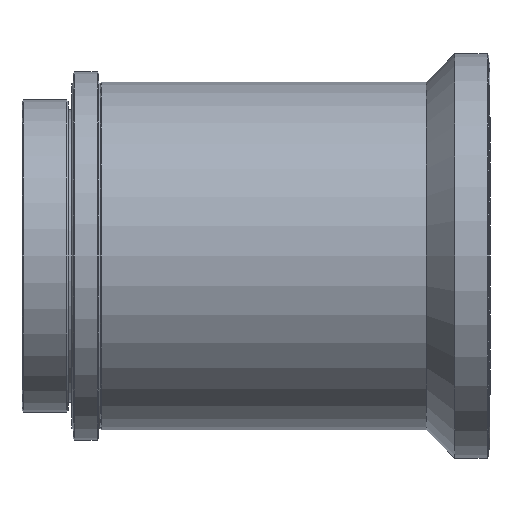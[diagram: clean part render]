
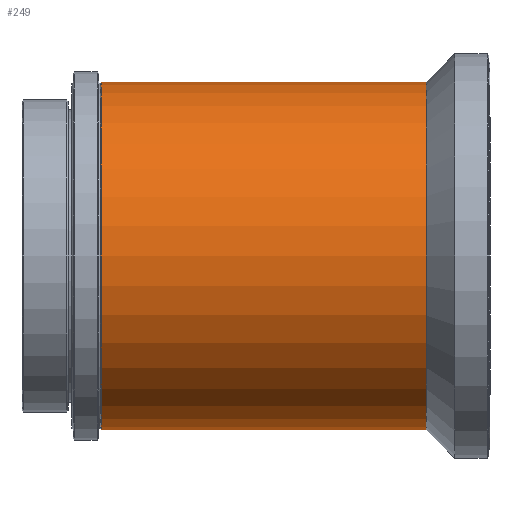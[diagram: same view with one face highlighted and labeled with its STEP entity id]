
A CAD part, front view. The second image highlights one B-rep face of the part: STEP entity #249.
In plain terms, the highlighted cylindrical face has radius 24.5 mm (diameter 49 mm), a partial arc.
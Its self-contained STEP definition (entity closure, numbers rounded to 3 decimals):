
#18 = EDGE_CURVE ( 'NONE', #456, #462, #1305, .T. ) ;
#26 = CIRCLE ( 'NONE', #340, 24.5 ) ;
#96 = CARTESIAN_POINT ( 'NONE',  ( 0., 0., 0. ) ) ;
#101 = FACE_OUTER_BOUND ( 'NONE', #211, .T. ) ;
#104 = CARTESIAN_POINT ( 'NONE',  ( 0., 0., -24.5 ) ) ;
#176 = AXIS2_PLACEMENT_3D ( 'NONE', #96, #229, #224 ) ;
#211 = EDGE_LOOP ( 'NONE', ( #858, #1549, #474, #1403 ) ) ;
#224 = DIRECTION ( 'NONE',  ( 0., 0., 1. ) ) ;
#229 = DIRECTION ( 'NONE',  ( -1., 0., 0. ) ) ;
#249 = ADVANCED_FACE ( 'NONE', ( #101 ), #697, .T. ) ;
#293 = CARTESIAN_POINT ( 'NONE',  ( 57., 0., 0. ) ) ;
#310 = VECTOR ( 'NONE', #792, 1000. ) ;
#322 = EDGE_CURVE ( 'NONE', #389, #836, #617, .T. ) ;
#340 = AXIS2_PLACEMENT_3D ( 'NONE', #1138, #1502, #414 ) ;
#389 = VERTEX_POINT ( 'NONE', #774 ) ;
#414 = DIRECTION ( 'NONE',  ( 0., 0., 1. ) ) ;
#423 = CARTESIAN_POINT ( 'NONE',  ( 11.2, 0., 24.5 ) ) ;
#456 = VERTEX_POINT ( 'NONE', #1339 ) ;
#462 = VERTEX_POINT ( 'NONE', #843 ) ;
#474 = ORIENTED_EDGE ( 'NONE', *, *, #322, .T. ) ;
#514 = AXIS2_PLACEMENT_3D ( 'NONE', #293, #880, #1235 ) ;
#617 = LINE ( 'NONE', #1154, #310 ) ;
#697 = CYLINDRICAL_SURFACE ( 'NONE', #176, 24.5 ) ;
#774 = CARTESIAN_POINT ( 'NONE',  ( 57., 0., 24.5 ) ) ;
#792 = DIRECTION ( 'NONE',  ( -1., 0., 0. ) ) ;
#809 = DIRECTION ( 'NONE',  ( -1., 0., 0. ) ) ;
#827 = EDGE_CURVE ( 'NONE', #456, #389, #977, .T. ) ;
#836 = VERTEX_POINT ( 'NONE', #423 ) ;
#843 = CARTESIAN_POINT ( 'NONE',  ( 11.2, 0., -24.5 ) ) ;
#858 = ORIENTED_EDGE ( 'NONE', *, *, #18, .F. ) ;
#880 = DIRECTION ( 'NONE',  ( -1., 0., 0. ) ) ;
#977 = CIRCLE ( 'NONE', #514, 24.5 ) ;
#1034 = VECTOR ( 'NONE', #809, 1000. ) ;
#1138 = CARTESIAN_POINT ( 'NONE',  ( 11.2, 0., 0. ) ) ;
#1154 = CARTESIAN_POINT ( 'NONE',  ( 0., 0., 24.5 ) ) ;
#1235 = DIRECTION ( 'NONE',  ( 0., 0., 1. ) ) ;
#1305 = LINE ( 'NONE', #104, #1034 ) ;
#1306 = EDGE_CURVE ( 'NONE', #462, #836, #26, .T. ) ;
#1339 = CARTESIAN_POINT ( 'NONE',  ( 57., 0., -24.5 ) ) ;
#1403 = ORIENTED_EDGE ( 'NONE', *, *, #1306, .F. ) ;
#1502 = DIRECTION ( 'NONE',  ( -1., 0., 0. ) ) ;
#1549 = ORIENTED_EDGE ( 'NONE', *, *, #827, .T. ) ;
